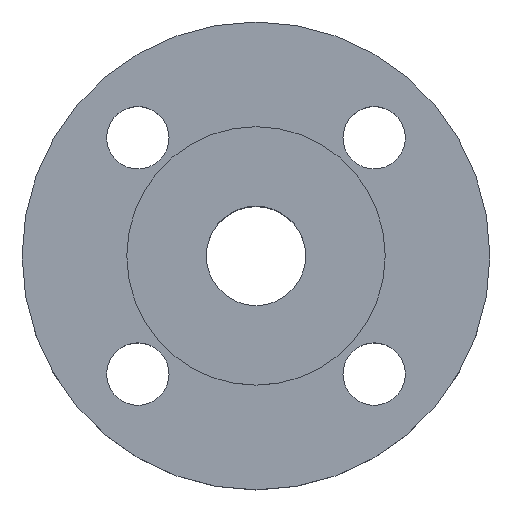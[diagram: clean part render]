
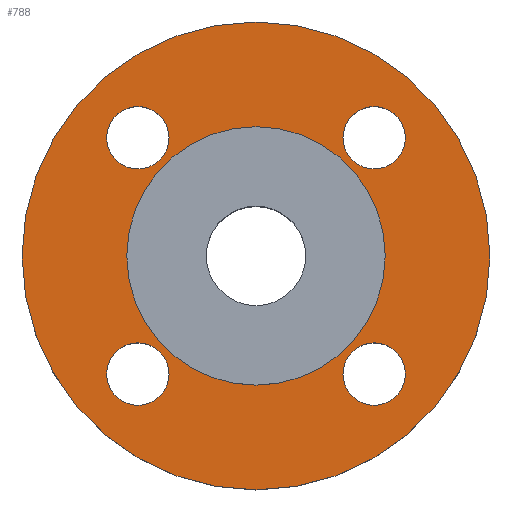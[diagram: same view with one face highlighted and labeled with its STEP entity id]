
A CAD part, top view. The second image highlights one B-rep face of the part: STEP entity #788.
In plain terms, the highlighted planar face has unit normal (0, 0, 1).
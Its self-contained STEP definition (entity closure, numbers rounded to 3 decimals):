
#1 = CIRCLE ( 'NONE', #11, 52.5 ) ;
#11 = AXIS2_PLACEMENT_3D ( 'NONE', #569, #570, #565 ) ;
#26 = CIRCLE ( 'NONE', #46, 7. ) ;
#30 = AXIS2_PLACEMENT_3D ( 'NONE', #126, #124, #121 ) ;
#46 = AXIS2_PLACEMENT_3D ( 'NONE', #530, #528, #527 ) ;
#56 = AXIS2_PLACEMENT_3D ( 'NONE', #155, #139, #147 ) ;
#59 = AXIS2_PLACEMENT_3D ( 'NONE', #581, #707, #598 ) ;
#68 = EDGE_CURVE ( 'NONE', #286, #368, #549, .T. ) ;
#106 = AXIS2_PLACEMENT_3D ( 'NONE', #436, #435, #434 ) ;
#121 = DIRECTION ( 'NONE',  ( -1., 0., 0. ) ) ;
#124 = DIRECTION ( 'NONE',  ( 0., 0., -1. ) ) ;
#126 = CARTESIAN_POINT ( 'NONE',  ( 26.517, -26.517, 0. ) ) ;
#128 = CIRCLE ( 'NONE', #143, 7. ) ;
#129 = DIRECTION ( 'NONE',  ( -1., 0., 0. ) ) ;
#130 = DIRECTION ( 'NONE',  ( 0., 0., -1. ) ) ;
#133 = CARTESIAN_POINT ( 'NONE',  ( 26.517, 26.517, 0. ) ) ;
#139 = DIRECTION ( 'NONE',  ( 0., 0., -1. ) ) ;
#143 = AXIS2_PLACEMENT_3D ( 'NONE', #133, #130, #129 ) ;
#147 = DIRECTION ( 'NONE',  ( -1., 0., 0. ) ) ;
#155 = CARTESIAN_POINT ( 'NONE',  ( -26.517, 26.517, 0. ) ) ;
#226 = VERTEX_POINT ( 'NONE', #284 ) ;
#229 = DIRECTION ( 'NONE',  ( 1., 0., 0. ) ) ;
#230 = DIRECTION ( 'NONE',  ( 0., 0., 1. ) ) ;
#231 = CARTESIAN_POINT ( 'NONE',  ( 0., 0., 0. ) ) ;
#232 = PLANE ( 'NONE',  #831 ) ;
#237 = FACE_OUTER_BOUND ( 'NONE', #341, .T. ) ;
#243 = FACE_BOUND ( 'NONE', #358, .T. ) ;
#264 = VERTEX_POINT ( 'NONE', #304 ) ;
#272 = VERTEX_POINT ( 'NONE', #311 ) ;
#284 = CARTESIAN_POINT ( 'NONE',  ( -19.517, 26.517, 0. ) ) ;
#286 = VERTEX_POINT ( 'NONE', #318 ) ;
#301 = EDGE_LOOP ( 'NONE', ( #681, #686 ) ) ;
#304 = CARTESIAN_POINT ( 'NONE',  ( 52.5, 0., 0. ) ) ;
#311 = CARTESIAN_POINT ( 'NONE',  ( -19.5, 0., 0. ) ) ;
#318 = CARTESIAN_POINT ( 'NONE',  ( -33.517, -26.517, 0. ) ) ;
#330 = FACE_BOUND ( 'NONE', #618, .T. ) ;
#338 = FACE_BOUND ( 'NONE', #764, .T. ) ;
#341 = EDGE_LOOP ( 'NONE', ( #706, #708 ) ) ;
#344 = FACE_BOUND ( 'NONE', #785, .T. ) ;
#345 = FACE_BOUND ( 'NONE', #301, .T. ) ;
#358 = EDGE_LOOP ( 'NONE', ( #698, #699 ) ) ;
#368 = VERTEX_POINT ( 'NONE', #372 ) ;
#372 = CARTESIAN_POINT ( 'NONE',  ( -19.517, -26.517, 0. ) ) ;
#378 = VERTEX_POINT ( 'NONE', #381 ) ;
#381 = CARTESIAN_POINT ( 'NONE',  ( 33.517, -26.517, 0. ) ) ;
#384 = CARTESIAN_POINT ( 'NONE',  ( -33.517, 26.517, 0. ) ) ;
#394 = VERTEX_POINT ( 'NONE', #384 ) ;
#434 = DIRECTION ( 'NONE',  ( -1., 0., 0. ) ) ;
#435 = DIRECTION ( 'NONE',  ( 0., 0., -1. ) ) ;
#436 = CARTESIAN_POINT ( 'NONE',  ( 26.517, -26.517, 0. ) ) ;
#454 = CARTESIAN_POINT ( 'NONE',  ( 26.517, 26.517, 0. ) ) ;
#455 = DIRECTION ( 'NONE',  ( 0., 0., -1. ) ) ;
#456 = AXIS2_PLACEMENT_3D ( 'NONE', #454, #455, #458 ) ;
#458 = DIRECTION ( 'NONE',  ( -1., 0., 0. ) ) ;
#462 = AXIS2_PLACEMENT_3D ( 'NONE', #611, #625, #715 ) ;
#466 = CIRCLE ( 'NONE', #456, 7. ) ;
#474 = CARTESIAN_POINT ( 'NONE',  ( 33.517, 26.517, 0. ) ) ;
#480 = EDGE_CURVE ( 'NONE', #587, #502, #466, .T. ) ;
#492 = CARTESIAN_POINT ( 'NONE',  ( 0., 0., 0. ) ) ;
#493 = DIRECTION ( 'NONE',  ( 0., 0., 1. ) ) ;
#495 = DIRECTION ( 'NONE',  ( 1., 0., 0. ) ) ;
#502 = VERTEX_POINT ( 'NONE', #474 ) ;
#509 = DIRECTION ( 'NONE',  ( 1., 0., 0. ) ) ;
#521 = DIRECTION ( 'NONE',  ( 0., 0., 1. ) ) ;
#524 = CARTESIAN_POINT ( 'NONE',  ( 0., 0., 0. ) ) ;
#527 = DIRECTION ( 'NONE',  ( -1., 0., 0. ) ) ;
#528 = DIRECTION ( 'NONE',  ( 0., 0., -1. ) ) ;
#530 = CARTESIAN_POINT ( 'NONE',  ( -26.517, 26.517, 0. ) ) ;
#539 = EDGE_CURVE ( 'NONE', #671, #272, #864, .T. ) ;
#549 = CIRCLE ( 'NONE', #462, 7. ) ;
#562 = CIRCLE ( 'NONE', #59, 7. ) ;
#564 = CARTESIAN_POINT ( 'NONE',  ( 19.517, -26.517, 0. ) ) ;
#565 = DIRECTION ( 'NONE',  ( 1., 0., 0. ) ) ;
#566 = EDGE_CURVE ( 'NONE', #394, #226, #687, .T. ) ;
#569 = CARTESIAN_POINT ( 'NONE',  ( 0., 0., 0. ) ) ;
#570 = DIRECTION ( 'NONE',  ( 0., 0., 1. ) ) ;
#575 = CARTESIAN_POINT ( 'NONE',  ( 19.5, 0., 0. ) ) ;
#581 = CARTESIAN_POINT ( 'NONE',  ( -26.517, -26.517, 0. ) ) ;
#587 = VERTEX_POINT ( 'NONE', #807 ) ;
#598 = DIRECTION ( 'NONE',  ( -1., 0., 0. ) ) ;
#608 = AXIS2_PLACEMENT_3D ( 'NONE', #492, #493, #495 ) ;
#611 = CARTESIAN_POINT ( 'NONE',  ( -26.517, -26.517, 0. ) ) ;
#618 = EDGE_LOOP ( 'NONE', ( #695, #697 ) ) ;
#621 = EDGE_CURVE ( 'NONE', #368, #286, #562, .T. ) ;
#623 = CARTESIAN_POINT ( 'NONE',  ( -52.5, 0., 0. ) ) ;
#625 = DIRECTION ( 'NONE',  ( 0., 0., -1. ) ) ;
#637 = EDGE_CURVE ( 'NONE', #272, #671, #749, .T. ) ;
#645 = DIRECTION ( 'NONE',  ( 1., 0., 0. ) ) ;
#646 = DIRECTION ( 'NONE',  ( 0., 0., 1. ) ) ;
#651 = CARTESIAN_POINT ( 'NONE',  ( 0., 0., 0. ) ) ;
#658 = VERTEX_POINT ( 'NONE', #623 ) ;
#671 = VERTEX_POINT ( 'NONE', #575 ) ;
#672 = EDGE_CURVE ( 'NONE', #264, #658, #1, .T. ) ;
#678 = VERTEX_POINT ( 'NONE', #564 ) ;
#681 = ORIENTED_EDGE ( 'NONE', *, *, #772, .T. ) ;
#686 = ORIENTED_EDGE ( 'NONE', *, *, #812, .T. ) ;
#687 = CIRCLE ( 'NONE', #56, 7. ) ;
#689 = ORIENTED_EDGE ( 'NONE', *, *, #621, .T. ) ;
#690 = ORIENTED_EDGE ( 'NONE', *, *, #68, .T. ) ;
#692 = ORIENTED_EDGE ( 'NONE', *, *, #723, .T. ) ;
#693 = ORIENTED_EDGE ( 'NONE', *, *, #566, .T. ) ;
#695 = ORIENTED_EDGE ( 'NONE', *, *, #809, .T. ) ;
#697 = ORIENTED_EDGE ( 'NONE', *, *, #480, .T. ) ;
#698 = ORIENTED_EDGE ( 'NONE', *, *, #539, .F. ) ;
#699 = ORIENTED_EDGE ( 'NONE', *, *, #637, .F. ) ;
#706 = ORIENTED_EDGE ( 'NONE', *, *, #672, .T. ) ;
#707 = DIRECTION ( 'NONE',  ( 0., 0., -1. ) ) ;
#708 = ORIENTED_EDGE ( 'NONE', *, *, #725, .T. ) ;
#715 = DIRECTION ( 'NONE',  ( -1., 0., 0. ) ) ;
#723 = EDGE_CURVE ( 'NONE', #226, #394, #26, .T. ) ;
#725 = EDGE_CURVE ( 'NONE', #658, #264, #849, .T. ) ;
#726 = AXIS2_PLACEMENT_3D ( 'NONE', #524, #521, #509 ) ;
#749 = CIRCLE ( 'NONE', #823, 19.5 ) ;
#764 = EDGE_LOOP ( 'NONE', ( #692, #693 ) ) ;
#772 = EDGE_CURVE ( 'NONE', #378, #678, #811, .T. ) ;
#785 = EDGE_LOOP ( 'NONE', ( #689, #690 ) ) ;
#788 = ADVANCED_FACE ( 'NONE', ( #345, #344, #338, #330, #243, #237 ), #232, .T. ) ;
#807 = CARTESIAN_POINT ( 'NONE',  ( 19.517, 26.517, 0. ) ) ;
#809 = EDGE_CURVE ( 'NONE', #502, #587, #128, .T. ) ;
#811 = CIRCLE ( 'NONE', #106, 7. ) ;
#812 = EDGE_CURVE ( 'NONE', #678, #378, #852, .T. ) ;
#823 = AXIS2_PLACEMENT_3D ( 'NONE', #651, #646, #645 ) ;
#831 = AXIS2_PLACEMENT_3D ( 'NONE', #231, #230, #229 ) ;
#849 = CIRCLE ( 'NONE', #726, 52.5 ) ;
#852 = CIRCLE ( 'NONE', #30, 7. ) ;
#864 = CIRCLE ( 'NONE', #608, 19.5 ) ;
